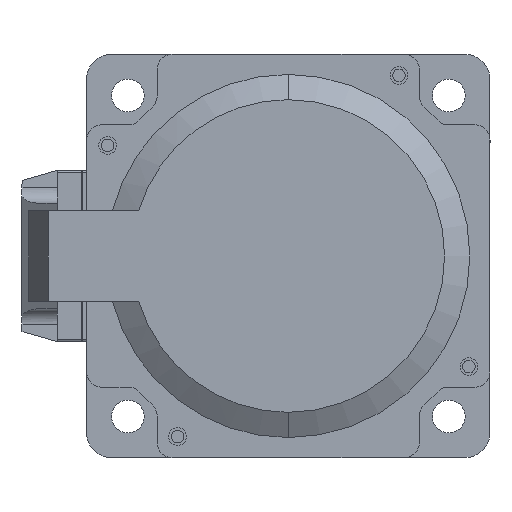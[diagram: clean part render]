
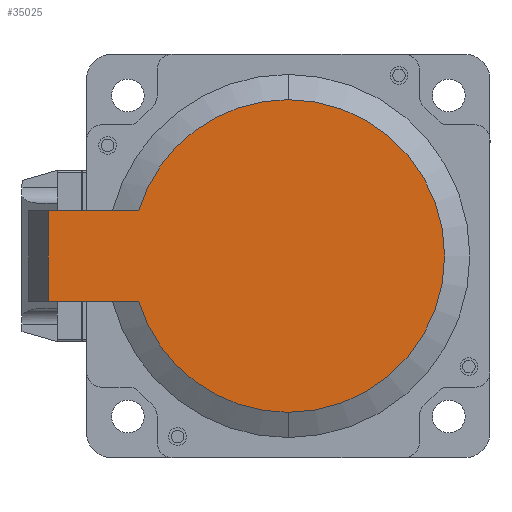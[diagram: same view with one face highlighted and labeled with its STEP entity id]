
A CAD part, left-side view. The second image highlights one B-rep face of the part: STEP entity #35025.
In plain terms, the highlighted planar face has unit normal (-1, 0, 0).
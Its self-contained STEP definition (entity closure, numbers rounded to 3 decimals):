
#863 = VECTOR ( 'NONE', #40170, 1000. ) ;
#1901 = DIRECTION ( 'NONE',  ( -1., 0., 0. ) ) ;
#3790 = EDGE_CURVE ( 'NONE', #13412, #17577, #19167, .T. ) ;
#4580 = DIRECTION ( 'NONE',  ( 0., 1., 0. ) ) ;
#5869 = DIRECTION ( 'NONE',  ( 0., 0., -1. ) ) ;
#7471 = DIRECTION ( 'NONE',  ( 0., 0., -1. ) ) ;
#8761 = VECTOR ( 'NONE', #4580, 1000. ) ;
#9987 = CARTESIAN_POINT ( 'NONE',  ( -144.801, 54.08, -9.459 ) ) ;
#12467 = DIRECTION ( 'NONE',  ( 0., 1., 0. ) ) ;
#12484 = EDGE_LOOP ( 'NONE', ( #43176, #30484, #19078, #37213, #43669, #26699 ) ) ;
#12836 = AXIS2_PLACEMENT_3D ( 'NONE', #40106, #20999, #28507 ) ;
#13225 = EDGE_CURVE ( 'NONE', #41878, #13412, #32877, .T. ) ;
#13412 = VERTEX_POINT ( 'NONE', #30447 ) ;
#14456 = CARTESIAN_POINT ( 'NONE',  ( -144.801, 6.531, 30.541 ) ) ;
#14926 = VECTOR ( 'NONE', #12467, 1000. ) ;
#15696 = CARTESIAN_POINT ( 'NONE',  ( -144.801, 6.531, -0.459 ) ) ;
#16354 = CARTESIAN_POINT ( 'NONE',  ( -144.801, 54.08, 8.541 ) ) ;
#17499 = CARTESIAN_POINT ( 'NONE',  ( -144.801, 6.531, -0.459 ) ) ;
#17577 = VERTEX_POINT ( 'NONE', #16354 ) ;
#18686 = EDGE_CURVE ( 'NONE', #20091, #21912, #49781, .T. ) ;
#19078 = ORIENTED_EDGE ( 'NONE', *, *, #46965, .T. ) ;
#19167 = LINE ( 'NONE', #43377, #8761 ) ;
#20091 = VERTEX_POINT ( 'NONE', #30869 ) ;
#20999 = DIRECTION ( 'NONE',  ( -1., 0., 0. ) ) ;
#21912 = VERTEX_POINT ( 'NONE', #9987 ) ;
#22779 = AXIS2_PLACEMENT_3D ( 'NONE', #17499, #1901, #5869 ) ;
#24164 = LINE ( 'NONE', #25138, #863 ) ;
#25138 = CARTESIAN_POINT ( 'NONE',  ( -144.801, 54.08, -9.459 ) ) ;
#26699 = ORIENTED_EDGE ( 'NONE', *, *, #27739, .F. ) ;
#27205 = EDGE_CURVE ( 'NONE', #20091, #36262, #35225, .T. ) ;
#27739 = EDGE_CURVE ( 'NONE', #21912, #17577, #24164, .T. ) ;
#27970 = CARTESIAN_POINT ( 'NONE',  ( -144.801, 6.531, -31.459 ) ) ;
#28186 = CARTESIAN_POINT ( 'NONE',  ( -144.801, 54.08, -9.459 ) ) ;
#28507 = DIRECTION ( 'NONE',  ( 0., 0., -1. ) ) ;
#29271 = FACE_OUTER_BOUND ( 'NONE', #12484, .T. ) ;
#30447 = CARTESIAN_POINT ( 'NONE',  ( -144.801, 36.196, 8.541 ) ) ;
#30484 = ORIENTED_EDGE ( 'NONE', *, *, #27205, .T. ) ;
#30869 = CARTESIAN_POINT ( 'NONE',  ( -144.801, 36.196, -9.459 ) ) ;
#32877 = CIRCLE ( 'NONE', #22779, 31. ) ;
#33827 = AXIS2_PLACEMENT_3D ( 'NONE', #41072, #48622, #44674 ) ;
#35025 = ADVANCED_FACE ( 'NONE', ( #29271 ), #44215, .T. ) ;
#35225 = CIRCLE ( 'NONE', #33827, 31. ) ;
#36262 = VERTEX_POINT ( 'NONE', #27970 ) ;
#37213 = ORIENTED_EDGE ( 'NONE', *, *, #13225, .T. ) ;
#40036 = AXIS2_PLACEMENT_3D ( 'NONE', #15696, #42304, #7471 ) ;
#40106 = CARTESIAN_POINT ( 'NONE',  ( -144.801, 6.531, -31.459 ) ) ;
#40170 = DIRECTION ( 'NONE',  ( 0., 0., 1. ) ) ;
#41072 = CARTESIAN_POINT ( 'NONE',  ( -144.801, 6.531, -0.459 ) ) ;
#41878 = VERTEX_POINT ( 'NONE', #14456 ) ;
#42304 = DIRECTION ( 'NONE',  ( -1., 0., 0. ) ) ;
#43176 = ORIENTED_EDGE ( 'NONE', *, *, #18686, .F. ) ;
#43377 = CARTESIAN_POINT ( 'NONE',  ( -144.801, 54.08, 8.541 ) ) ;
#43669 = ORIENTED_EDGE ( 'NONE', *, *, #3790, .T. ) ;
#44215 = PLANE ( 'NONE',  #12836 ) ;
#44674 = DIRECTION ( 'NONE',  ( 0., 0., -1. ) ) ;
#46965 = EDGE_CURVE ( 'NONE', #36262, #41878, #49235, .T. ) ;
#48622 = DIRECTION ( 'NONE',  ( -1., 0., 0. ) ) ;
#49235 = CIRCLE ( 'NONE', #40036, 31. ) ;
#49781 = LINE ( 'NONE', #28186, #14926 ) ;
